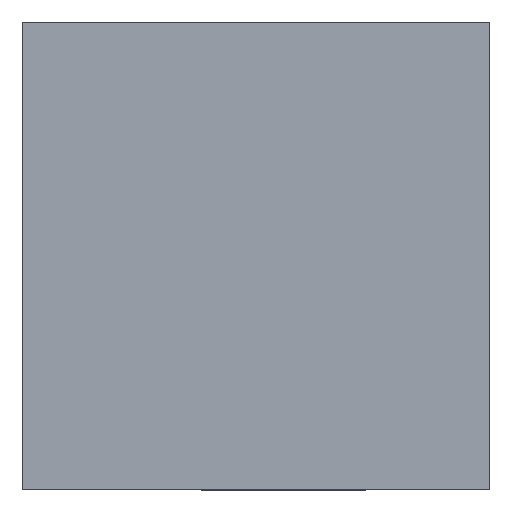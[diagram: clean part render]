
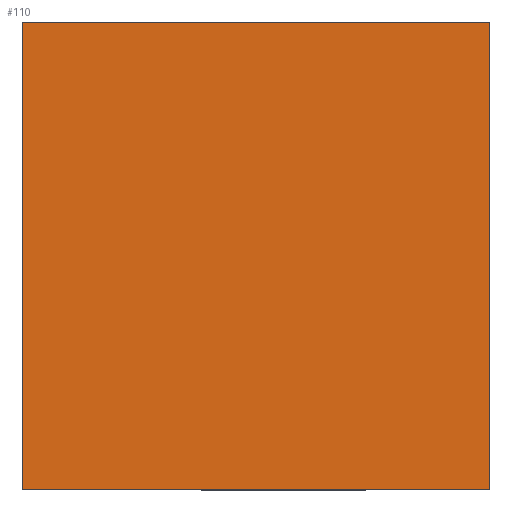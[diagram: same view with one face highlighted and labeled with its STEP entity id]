
A CAD part, top view. The second image highlights one B-rep face of the part: STEP entity #110.
In plain terms, the highlighted planar face has unit normal (0, 0, 1).
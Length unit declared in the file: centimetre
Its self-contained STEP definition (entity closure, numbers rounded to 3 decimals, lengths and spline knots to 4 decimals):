
#8 = DIRECTION ( 'NONE',  ( -1., 0., 0. ) ) ;
#33 = VECTOR ( 'NONE', #341, 100. ) ;
#36 = VERTEX_POINT ( 'NONE', #330 ) ;
#55 = CARTESIAN_POINT ( 'NONE',  ( 0., 1000., 1000. ) ) ;
#61 = CARTESIAN_POINT ( 'NONE',  ( 1000., 1000., 1000. ) ) ;
#71 = VECTOR ( 'NONE', #103, 100. ) ;
#86 = FACE_OUTER_BOUND ( 'NONE', #376, .T. ) ;
#90 = LINE ( 'NONE', #347, #33 ) ;
#101 = AXIS2_PLACEMENT_3D ( 'NONE', #116, #215, #293 ) ;
#103 = DIRECTION ( 'NONE',  ( 0., 1., 0. ) ) ;
#110 = ADVANCED_FACE ( 'NONE', ( #86 ), #273, .T. ) ;
#116 = CARTESIAN_POINT ( 'NONE',  ( 0., 0., 1000. ) ) ;
#127 = VECTOR ( 'NONE', #8, 100. ) ;
#142 = LINE ( 'NONE', #261, #359 ) ;
#152 = ORIENTED_EDGE ( 'NONE', *, *, #223, .T. ) ;
#158 = CARTESIAN_POINT ( 'NONE',  ( 0., 0., 1000. ) ) ;
#165 = CARTESIAN_POINT ( 'NONE',  ( 1000., 1000., 1000. ) ) ;
#196 = VERTEX_POINT ( 'NONE', #55 ) ;
#215 = DIRECTION ( 'NONE',  ( 0., 0., 1. ) ) ;
#223 = EDGE_CURVE ( 'NONE', #240, #36, #90, .T. ) ;
#240 = VERTEX_POINT ( 'NONE', #158 ) ;
#253 = ORIENTED_EDGE ( 'NONE', *, *, #367, .T. ) ;
#256 = LINE ( 'NONE', #319, #127 ) ;
#258 = LINE ( 'NONE', #61, #71 ) ;
#261 = CARTESIAN_POINT ( 'NONE',  ( 0., 1000., 1000. ) ) ;
#262 = DIRECTION ( 'NONE',  ( 0., -1., 0. ) ) ;
#269 = ORIENTED_EDGE ( 'NONE', *, *, #386, .T. ) ;
#273 = PLANE ( 'NONE',  #101 ) ;
#293 = DIRECTION ( 'NONE',  ( 1., 0., 0. ) ) ;
#319 = CARTESIAN_POINT ( 'NONE',  ( 0., 1000., 1000. ) ) ;
#330 = CARTESIAN_POINT ( 'NONE',  ( 1000., 0., 1000. ) ) ;
#341 = DIRECTION ( 'NONE',  ( 1., 0., 0. ) ) ;
#347 = CARTESIAN_POINT ( 'NONE',  ( 0., 0., 1000. ) ) ;
#359 = VECTOR ( 'NONE', #262, 100. ) ;
#364 = ORIENTED_EDGE ( 'NONE', *, *, #391, .T. ) ;
#367 = EDGE_CURVE ( 'NONE', #36, #392, #258, .T. ) ;
#376 = EDGE_LOOP ( 'NONE', ( #364, #152, #253, #269 ) ) ;
#386 = EDGE_CURVE ( 'NONE', #392, #196, #256, .T. ) ;
#391 = EDGE_CURVE ( 'NONE', #196, #240, #142, .T. ) ;
#392 = VERTEX_POINT ( 'NONE', #165 ) ;
